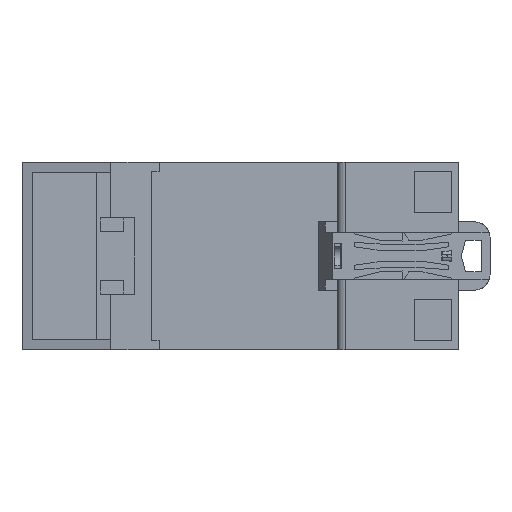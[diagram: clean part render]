
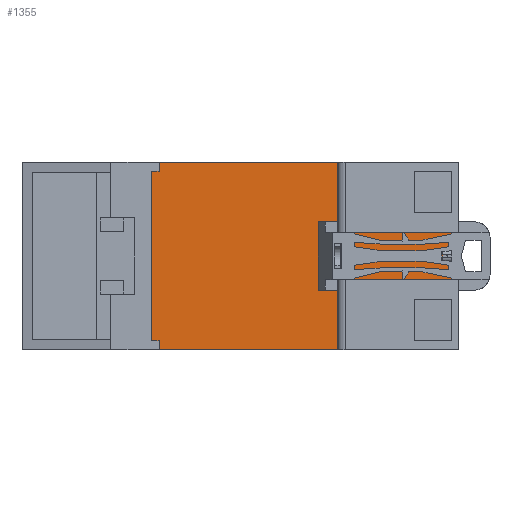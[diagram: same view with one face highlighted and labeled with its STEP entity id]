
A CAD part, left-side view. The second image highlights one B-rep face of the part: STEP entity #1355.
In plain terms, the highlighted planar face has unit normal (-1, 0, 0).
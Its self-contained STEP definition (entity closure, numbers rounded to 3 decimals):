
#90 = EDGE_CURVE ( 'NONE', #2017, #1920, #19612, .T. ) ;
#157 = EDGE_CURVE ( 'NONE', #10949, #2017, #19820, .T. ) ;
#172 = EDGE_CURVE ( 'NONE', #10964, #10905, #19860, .T. ) ;
#1355 = ADVANCED_FACE ( 'NONE', ( #8334 ), #8319, .F. ) ;
#1920 = VERTEX_POINT ( 'NONE', #20920 ) ;
#2017 = VERTEX_POINT ( 'NONE', #21017 ) ;
#2945 = EDGE_CURVE ( 'NONE', #11078, #10990, #21432, .T. ) ;
#2946 = EDGE_CURVE ( 'NONE', #11078, #11096, #21418, .T. ) ;
#2947 = EDGE_CURVE ( 'NONE', #11096, #11039, #21437, .T. ) ;
#2948 = EDGE_CURVE ( 'NONE', #11054, #1920, #21440, .T. ) ;
#2949 = EDGE_CURVE ( 'NONE', #10949, #10964, #21443, .T. ) ;
#2950 = EDGE_CURVE ( 'NONE', #11075, #10905, #21446, .T. ) ;
#2951 = EDGE_CURVE ( 'NONE', #11040, #11075, #21449, .T. ) ;
#3179 = AXIS2_PLACEMENT_3D ( 'NONE', #8344, #8345, #8346 ) ;
#4117 = VECTOR ( 'NONE', #21439, 1000. ) ;
#4118 = VECTOR ( 'NONE', #21436, 1000. ) ;
#4119 = VECTOR ( 'NONE', #21434, 1000. ) ;
#4121 = VECTOR ( 'NONE', #21442, 1000. ) ;
#4122 = VECTOR ( 'NONE', #21445, 1000. ) ;
#4123 = VECTOR ( 'NONE', #21448, 1000. ) ;
#4124 = VECTOR ( 'NONE', #21452, 1000. ) ;
#8319 = PLANE ( 'NONE',  #3179 ) ;
#8334 = FACE_OUTER_BOUND ( 'NONE', #24420, .T. ) ;
#8344 = CARTESIAN_POINT ( 'NONE',  ( -14.79, 16.637, 22.125 ) ) ;
#8345 = DIRECTION ( 'NONE',  ( 1., 0., 0. ) ) ;
#8346 = DIRECTION ( 'NONE',  ( 0., 0., -1. ) ) ;
#9681 = CARTESIAN_POINT ( 'NONE',  ( -14.79, -18.763, -17.875 ) ) ;
#9725 = CARTESIAN_POINT ( 'NONE',  ( -14.79, 16.637, 17.875 ) ) ;
#9740 = CARTESIAN_POINT ( 'NONE',  ( -14.79, 16.637, -17.875 ) ) ;
#9766 = CARTESIAN_POINT ( 'NONE',  ( -14.79, -41.763, -1.2 ) ) ;
#9815 = CARTESIAN_POINT ( 'NONE',  ( -14.79, -41.763, 1.2 ) ) ;
#9816 = CARTESIAN_POINT ( 'NONE',  ( -14.79, -41.763, -4.5 ) ) ;
#9830 = CARTESIAN_POINT ( 'NONE',  ( -14.79, -41.763, 4.5 ) ) ;
#9851 = CARTESIAN_POINT ( 'NONE',  ( -14.79, -18.763, -4.5 ) ) ;
#9854 = CARTESIAN_POINT ( 'NONE',  ( -14.79, -38.763, -1.2 ) ) ;
#9872 = CARTESIAN_POINT ( 'NONE',  ( -14.79, -38.763, 1.2 ) ) ;
#10905 = VERTEX_POINT ( 'NONE', #9681 ) ;
#10949 = VERTEX_POINT ( 'NONE', #9725 ) ;
#10964 = VERTEX_POINT ( 'NONE', #9740 ) ;
#10990 = VERTEX_POINT ( 'NONE', #9766 ) ;
#11039 = VERTEX_POINT ( 'NONE', #9815 ) ;
#11040 = VERTEX_POINT ( 'NONE', #9816 ) ;
#11054 = VERTEX_POINT ( 'NONE', #9830 ) ;
#11075 = VERTEX_POINT ( 'NONE', #9851 ) ;
#11078 = VERTEX_POINT ( 'NONE', #9854 ) ;
#11096 = VERTEX_POINT ( 'NONE', #9872 ) ;
#14124 = LINE ( 'NONE', #14125, #16442 ) ;
#14125 = CARTESIAN_POINT ( 'NONE',  ( -14.79, -41.763, 4.5 ) ) ;
#14126 = DIRECTION ( 'NONE',  ( 0., 0., 1. ) ) ;
#14142 = LINE ( 'NONE', #14143, #16450 ) ;
#14143 = CARTESIAN_POINT ( 'NONE',  ( -14.79, -41.763, 4.5 ) ) ;
#14144 = DIRECTION ( 'NONE',  ( 0., 0., 1. ) ) ;
#16442 = VECTOR ( 'NONE', #14126, 1000. ) ;
#16450 = VECTOR ( 'NONE', #14144, 1000. ) ;
#19612 = LINE ( 'NONE', #19620, #21995 ) ;
#19620 = CARTESIAN_POINT ( 'NONE',  ( -14.79, -18.763, 22.125 ) ) ;
#19622 = DIRECTION ( 'NONE',  ( 0., 0., -1. ) ) ;
#19820 = LINE ( 'NONE', #19821, #21540 ) ;
#19821 = CARTESIAN_POINT ( 'NONE',  ( -14.79, -41.763, 17.875 ) ) ;
#19822 = DIRECTION ( 'NONE',  ( 0., -1., 0. ) ) ;
#19860 = LINE ( 'NONE', #19866, #21495 ) ;
#19866 = CARTESIAN_POINT ( 'NONE',  ( -14.79, 16.637, -17.875 ) ) ;
#19867 = DIRECTION ( 'NONE',  ( 0., -1., 0. ) ) ;
#20920 = CARTESIAN_POINT ( 'NONE',  ( -14.79, -18.763, 4.5 ) ) ;
#21017 = CARTESIAN_POINT ( 'NONE',  ( -14.79, -18.763, 17.875 ) ) ;
#21418 = LINE ( 'NONE', #21435, #4118 ) ;
#21432 = LINE ( 'NONE', #21433, #4119 ) ;
#21433 = CARTESIAN_POINT ( 'NONE',  ( -14.79, -38.763, -1.2 ) ) ;
#21434 = DIRECTION ( 'NONE',  ( 0., -1., 0. ) ) ;
#21435 = CARTESIAN_POINT ( 'NONE',  ( -14.79, -38.763, 0. ) ) ;
#21436 = DIRECTION ( 'NONE',  ( 0., 0., 1. ) ) ;
#21437 = LINE ( 'NONE', #21438, #4117 ) ;
#21438 = CARTESIAN_POINT ( 'NONE',  ( -14.79, -38.763, 1.2 ) ) ;
#21439 = DIRECTION ( 'NONE',  ( 0., -1., 0. ) ) ;
#21440 = LINE ( 'NONE', #21441, #4121 ) ;
#21441 = CARTESIAN_POINT ( 'NONE',  ( -14.79, -56.08, 4.5 ) ) ;
#21442 = DIRECTION ( 'NONE',  ( 0., 1., 0. ) ) ;
#21443 = LINE ( 'NONE', #21444, #4122 ) ;
#21444 = CARTESIAN_POINT ( 'NONE',  ( -14.79, 16.637, 22.125 ) ) ;
#21445 = DIRECTION ( 'NONE',  ( 0., 0., -1. ) ) ;
#21446 = LINE ( 'NONE', #21447, #4123 ) ;
#21447 = CARTESIAN_POINT ( 'NONE',  ( -14.79, -18.763, 22.125 ) ) ;
#21448 = DIRECTION ( 'NONE',  ( 0., 0., -1. ) ) ;
#21449 = LINE ( 'NONE', #21451, #4124 ) ;
#21451 = CARTESIAN_POINT ( 'NONE',  ( -14.79, -56.08, -4.5 ) ) ;
#21452 = DIRECTION ( 'NONE',  ( 0., 1., 0. ) ) ;
#21495 = VECTOR ( 'NONE', #19867, 1000. ) ;
#21540 = VECTOR ( 'NONE', #19822, 1000. ) ;
#21995 = VECTOR ( 'NONE', #19622, 1000. ) ;
#22514 = ORIENTED_EDGE ( 'NONE', *, *, #23487, .T. ) ;
#22515 = ORIENTED_EDGE ( 'NONE', *, *, #2945, .F. ) ;
#22516 = ORIENTED_EDGE ( 'NONE', *, *, #2946, .T. ) ;
#22517 = ORIENTED_EDGE ( 'NONE', *, *, #2947, .T. ) ;
#22518 = ORIENTED_EDGE ( 'NONE', *, *, #23481, .T. ) ;
#22519 = ORIENTED_EDGE ( 'NONE', *, *, #2948, .T. ) ;
#22520 = ORIENTED_EDGE ( 'NONE', *, *, #90, .F. ) ;
#22521 = ORIENTED_EDGE ( 'NONE', *, *, #157, .F. ) ;
#22522 = ORIENTED_EDGE ( 'NONE', *, *, #2949, .T. ) ;
#22523 = ORIENTED_EDGE ( 'NONE', *, *, #172, .T. ) ;
#22524 = ORIENTED_EDGE ( 'NONE', *, *, #2950, .F. ) ;
#22525 = ORIENTED_EDGE ( 'NONE', *, *, #2951, .F. ) ;
#23481 = EDGE_CURVE ( 'NONE', #11039, #11054, #14124, .T. ) ;
#23487 = EDGE_CURVE ( 'NONE', #11040, #10990, #14142, .T. ) ;
#24420 = EDGE_LOOP ( 'NONE', ( #22514, #22515, #22516, #22517, #22518, #22519, #22520, #22521, #22522, #22523, #22524, #22525 ) ) ;
